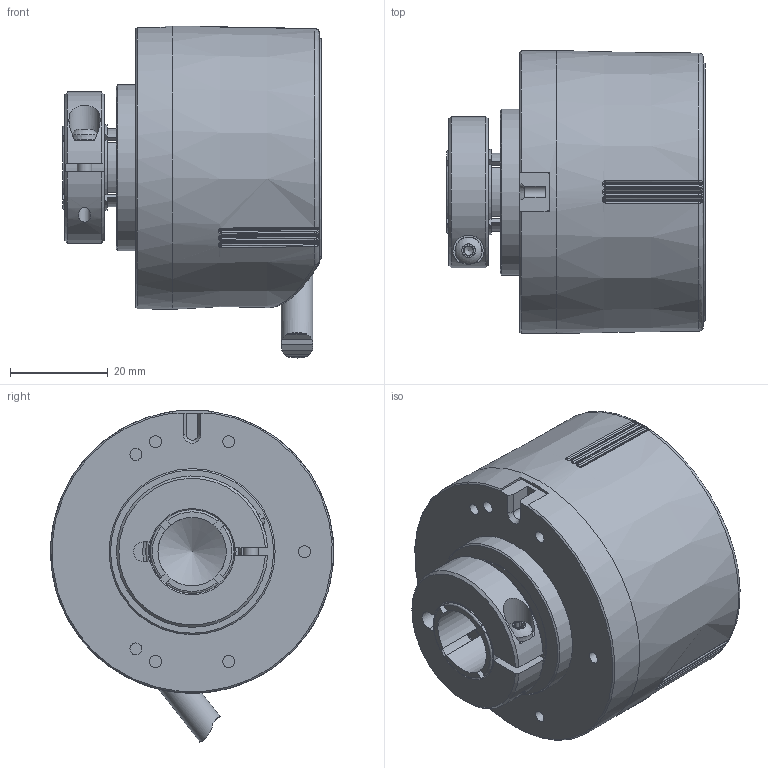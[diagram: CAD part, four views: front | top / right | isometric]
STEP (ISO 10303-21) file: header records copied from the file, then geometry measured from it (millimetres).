
FILE_DESCRIPTION( ( 'Unknown' ), '1' );
FILE_NAME( '//emea.baumernet.org/de05d/RD/caddy/k/GESAMT/EIL580/EIL580/3D/STEP/MarCom/EIL580-BP14.7Px.xxxxx.A.stp', 'Unknown', ( 'Unknown' ), ( 'Unknown' ), 'PSStep 19.0.9', 'Unknown', ' ' );
FILE_SCHEMA( ( 'AUTOMOTIVE_DESIGN { 1 0 10303 214 1 1 1 1 }' ) );
Length unit declared in the file: millimetre
Products named in the file (2): Assem1; 1_44
Assembly tree (1 placements, depth 2):
  Assem1
    1_44
Bounding box: 53 x 57.95 x 67.97 mm (x, y, z)
Volume: 99340.8 mm3; surface area: 21334.4 mm2
Topology: 1 solids, 5 shells, 548 faces, 1338 edges, 800 vertices
Faces by surface type: cylinder 191, plane 128, bspline 118, cone 47, torus 36, sphere 26, revolution 2
Full cylindrical faces by diameter (mm): 2.46 x15, 2.998 x1, 3.2 x1, 4 x1, 5.5 x1, 6.5 x1, 6.97 x2, 7 x1, 7.7 x1, 8.5 x1, 9 x1, 12.2 x1, 14 x1, 16.8 x1, 19 x2, 19.312 x1, 20.262 x1, 20.704 x1, 22 x1, 23.904 x1, 24.927 x1, 25.2 x1, 25.558 x1, 26 x2, 34 x1, 58 x1
Entity records: 55591 total; most frequent: CARTESIAN_POINT 40000, ORIENTED_EDGE 2436, DIRECTION 2026, EDGE_CURVE 1218, AXIS2_PLACEMENT_3D 876, VERTEX_POINT 787, EDGE_LOOP 681, FACE_OUTER_BOUND 607
